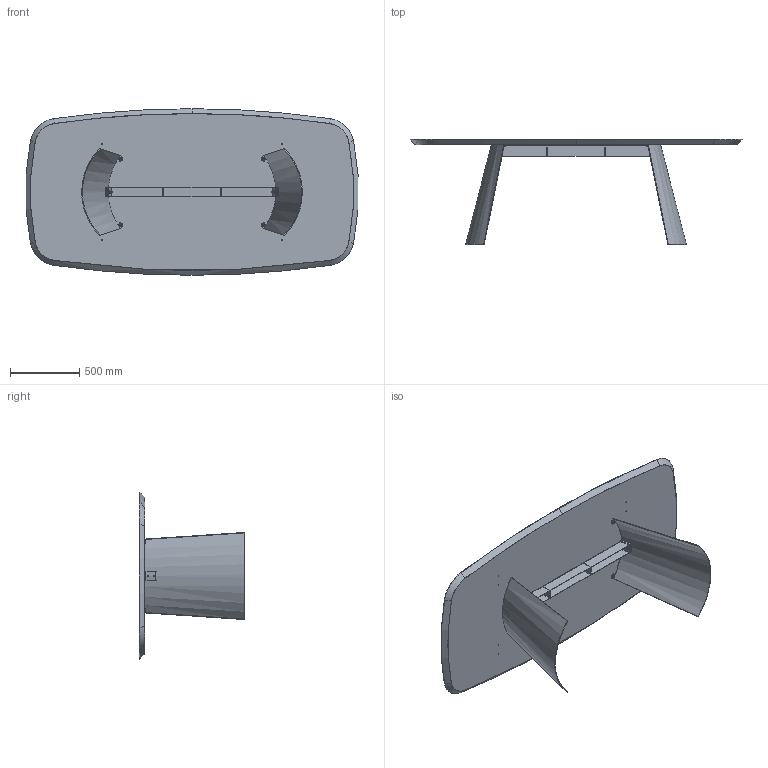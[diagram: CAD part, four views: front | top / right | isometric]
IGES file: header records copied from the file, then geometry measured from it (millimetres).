
Start section: SolidWorks IGES file using analytic representation for surfaces
Global section: file name: Y:\eforma\TECNICO\SOLIDWORKS\E-FORMA\1-TAVOLI\DORIAN\02 parts-rev 01\DN43W.IGS; native system: SolidWorks 2022; preprocessor: SolidWorks 2022; author: eforma.tech; date: 240807.170825; units: millimetre
Bounding box: 2391.9 x 758 x 1200 mm (x, y, z)
Volume: 102692727.6 mm3; surface area: 7963510.5 mm2
Topology: 38 solids, 38 shells, 673 faces, 1564 edges, 948 vertices
Faces by surface type: revolution 399, plane 256, bspline 18
